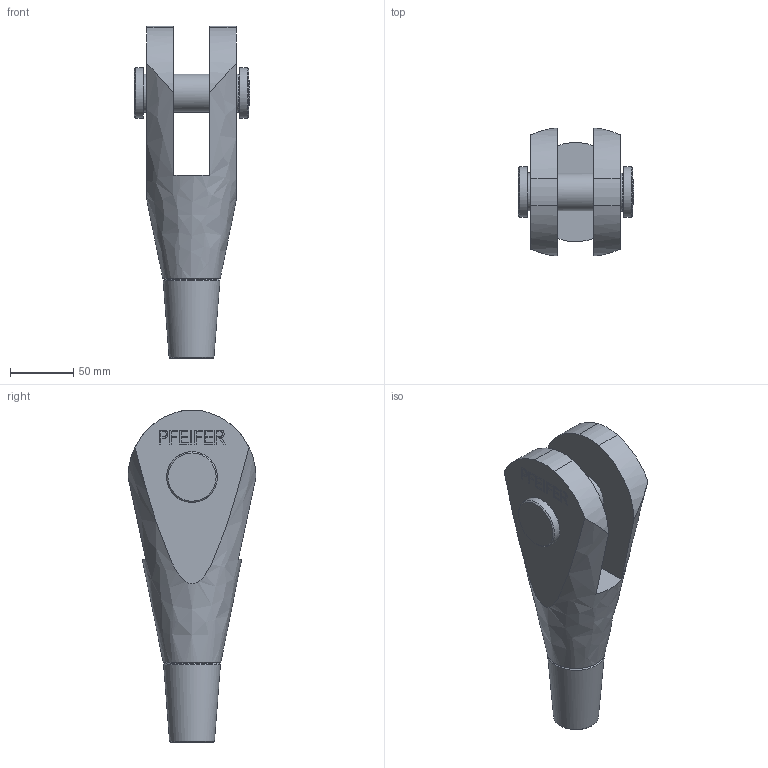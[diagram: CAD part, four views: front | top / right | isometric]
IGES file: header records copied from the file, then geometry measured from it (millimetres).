
Global section: file name: 520-030-GAK; native system: Autodesk Inventor 2016; preprocessor: unknown; author: Administrator; date: 20200625.075444; units: centimetre
Bounding box: 90.75 x 100.87 x 261.9 mm (x, y, z)
Volume: 703588.9 mm3; surface area: 95480.2 mm2
Topology: 2 solids, 3 shells, 186 faces, 491 edges, 328 vertices
Faces by surface type: bspline 186
